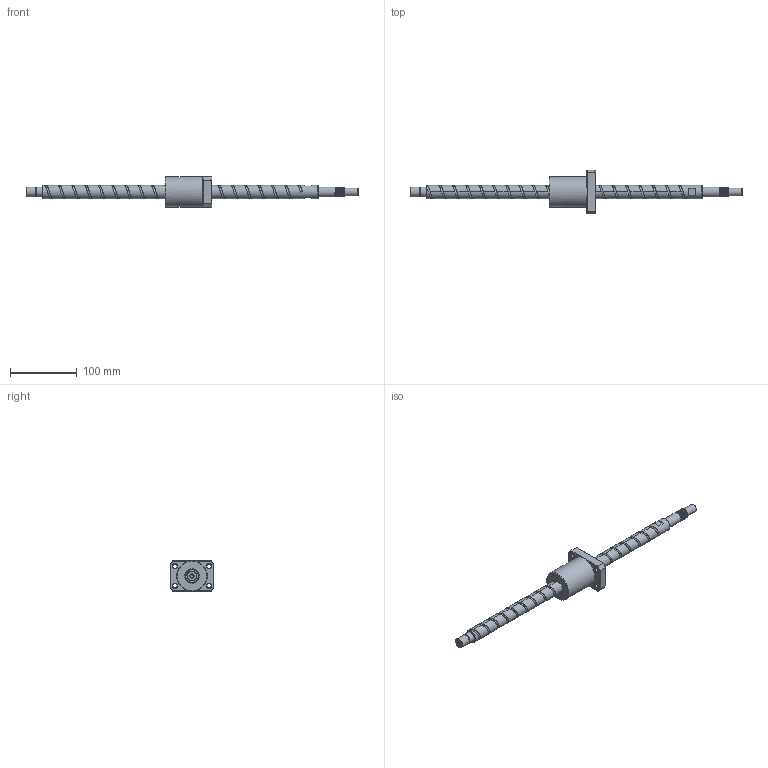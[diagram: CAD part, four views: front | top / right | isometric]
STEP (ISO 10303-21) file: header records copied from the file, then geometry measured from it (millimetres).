
FILE_DESCRIPTION (( 'STEP AP203' ), '1' );
FILE_NAME ('XSVR02020A1DGC5-499-P1.step', '2024-06-03T06:48:44', ( '' ), ( '' ), 'SwSTEP 2.0', 'SolidWorks 2022', '' );
FILE_SCHEMA (( 'CONFIG_CONTROL_DESIGN' ));
Length unit declared in the file: millimetre
Products named in the file (1): XSVR02020A1DGC5-499-P1
Bounding box: 499 x 66 x 46 mm (x, y, z)
Volume: 242270 mm3; surface area: 54648.4 mm2
Topology: 2 solids, 2 shells, 176 faces, 478 edges, 314 vertices
Faces by surface type: cylinder 78, plane 40, bspline 29, cone 20, torus 9
Full cylindrical faces by diameter (mm): 4 x1, 5 x15, 6.6 x4, 11 x4, 12 x1, 14.3 x1, 15 x16, 20 x20, 22.1 x1, 46 x1
Entity records: 21912 total; most frequent: CARTESIAN_POINT 19294, ORIENTED_EDGE 576, DIRECTION 407, EDGE_CURVE 288, VERTEX_POINT 206, EDGE_LOOP 184, AXIS2_PLACEMENT_3D 178, FACE_OUTER_BOUND 146
